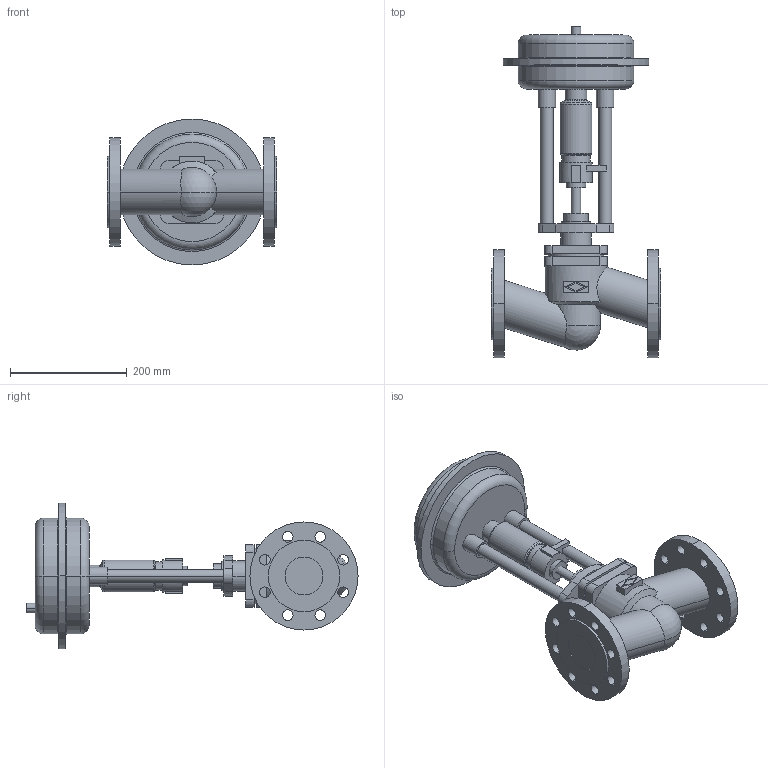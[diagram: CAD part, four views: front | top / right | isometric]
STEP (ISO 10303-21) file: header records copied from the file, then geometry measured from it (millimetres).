
FILE_DESCRIPTION(('OneSpaceDesigner STEP Export'),'2;1');
FILE_NAME('c000001462.stp','2005-02-15T 9:00:23',(''),(''),'OneSpace Designer STEP processor (Jan. 2003) for AP203(Solid Model)','OneSpace Designer 12.01D 09-Jul-2004 (C) CoCreate Software GmbH','');
FILE_SCHEMA(('CONFIG_CONTROL_DESIGN'));
Length unit declared in the file: millimetre
Products named in the file (2): 1; 2
Bounding box: 290 x 568.5 x 250 mm (x, y, z)
Volume: 6850494.4 mm3; surface area: 482721.4 mm2
Topology: 2 solids, 2 shells, 197 faces, 483 edges, 315 vertices
Faces by surface type: cylinder 100, plane 73, torus 16, cone 6, sphere 2
Entity records: 5592 total; most frequent: CARTESIAN_POINT 1135, ORIENTED_EDGE 962, DIRECTION 791, EDGE_CURVE 481, VERTEX_POINT 315, AXIS2_PLACEMENT_3D 288, EDGE_LOOP 256, VECTOR 215
